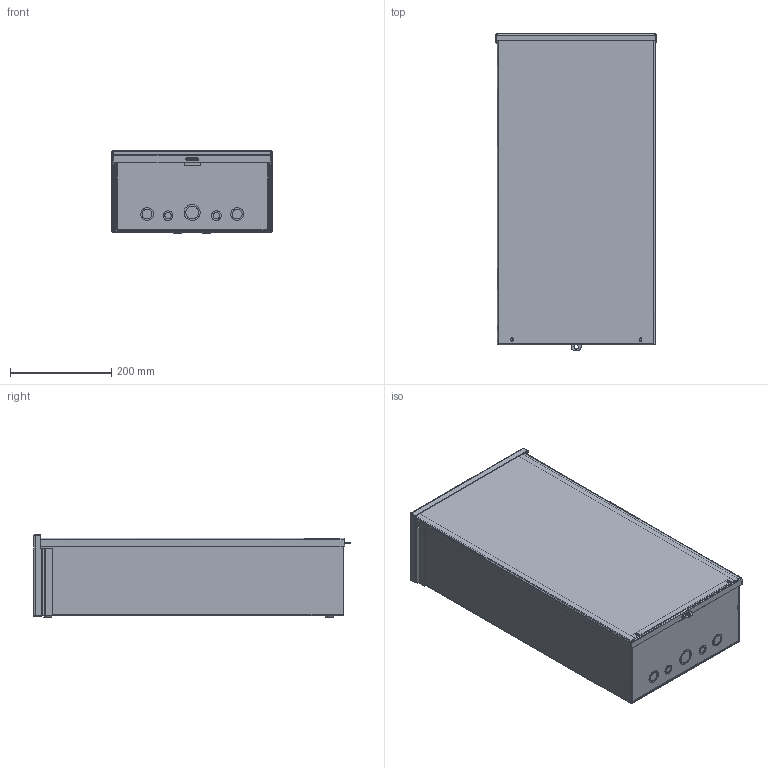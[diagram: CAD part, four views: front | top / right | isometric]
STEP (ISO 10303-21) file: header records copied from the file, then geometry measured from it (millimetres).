
FILE_DESCRIPTION((''),'2;1');
FILE_NAME('D:\scratch\ideas\a24r126gv.stp','2006-12-15T10:58:42',( 'User'),('SDRC'),'I-DEAS Master Series 9','UNIX','Yes');
FILE_SCHEMA(('AUTOMOTIVE_DESIGN { 1 0 10303 214 0 1 1 1 }'));
Length unit declared in the file: inch
Products named in the file (7): 13395; 3rsc_wmt_body_24x12x6; 3rsc_top_12x6; 3rsc_bottom_12x6; 3rsc_body_24x12x6; 3rsc_cover_24x12; 78124001
Assembly tree (6 placements, depth 3):
  13395
    3rsc_wmt_body_24x12x6
      3rsc_top_12x6
      3rsc_bottom_12x6
      3rsc_body_24x12x6
    3rsc_cover_24x12
    78124001
Bounding box: 317.5 x 625.55 x 163.83 mm (x, y, z)
Volume: 1006188.3 mm3; surface area: 1449885.5 mm2
Topology: 5 solids, 5 shells, 259 faces, 645 edges, 412 vertices
Faces by surface type: bspline 259
Entity records: 8144 total; most frequent: CARTESIAN_POINT 3963, ORIENTED_EDGE 1290, EDGE_CURVE 645, VERTEX_POINT 412, QUASI_UNIFORM_CURVE 318, EDGE_LOOP 303, FACE_OUTER_BOUND 259, ADVANCED_FACE 259
